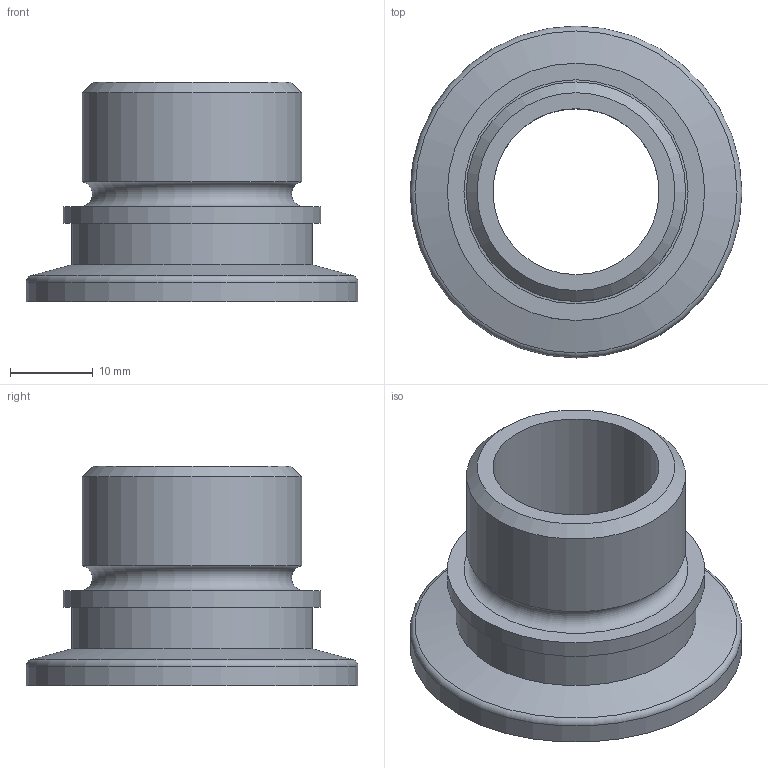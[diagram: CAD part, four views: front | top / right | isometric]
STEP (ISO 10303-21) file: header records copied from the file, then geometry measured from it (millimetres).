
FILE_DESCRIPTION(/* description */ ('Unknown'),/* implementation_level */ '2;1');
FILE_NAME(/* name */ '1593',/* time_stamp */ '2019-09-09T13:35:57+02:00',/* author */ ('Unknown'),/* organization */ ('Unknown'),/* preprocessor_version */ 'ST-DEVELOPER v16.7',/* originating_system */ 'DEX',/* authorisation */ $);
FILE_SCHEMA (('AUTOMOTIVE_DESIGN {1 0 10303 214 3 1 1}'));
Length unit declared in the file: millimetre
Products named in the file (1): 1593
Bounding box: 40 x 40 x 26.5 mm (x, y, z)
Volume: 9045.1 mm3; surface area: 6072.9 mm2
Topology: 1 solids, 1 shells, 15 faces, 28 edges, 18 vertices
Faces by surface type: cylinder 6, plane 5, cone 2, torus 2
Full cylindrical faces by diameter (mm): 20 x1, 26.2 x1, 26.441 x1, 29 x1, 31 x1, 40 x1
Entity records: 437 total; most frequent: DIRECTION 62, CARTESIAN_POINT 46, AXIS2_PLACEMENT_3D 31, ORIENTED_EDGE 30, EDGE_LOOP 30, FACE_BOUND 30, EDGE_CURVE 15, VERTEX_POINT 15
